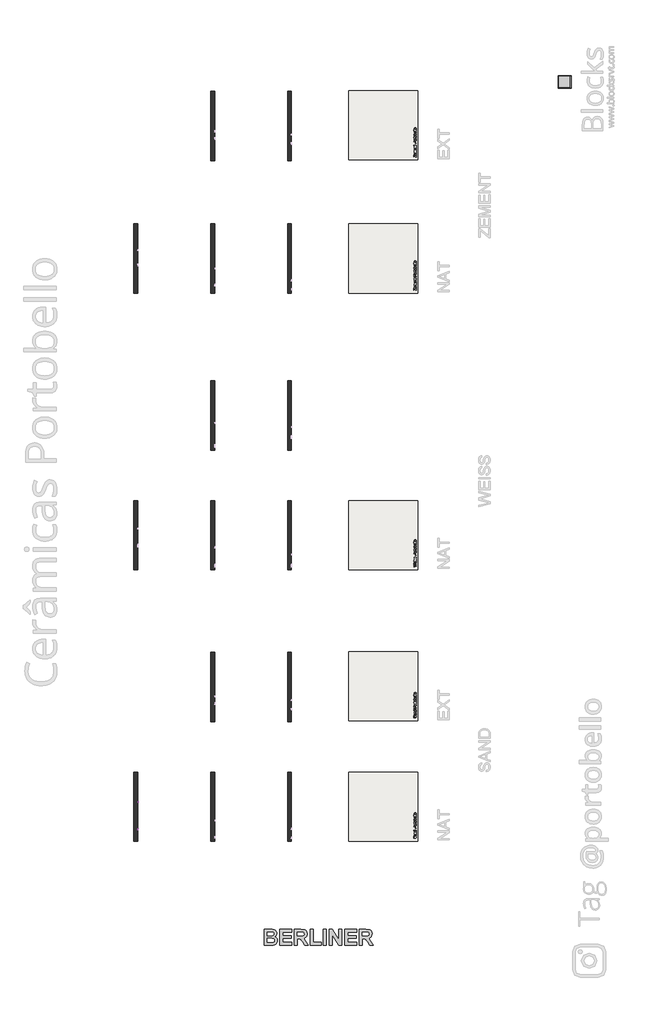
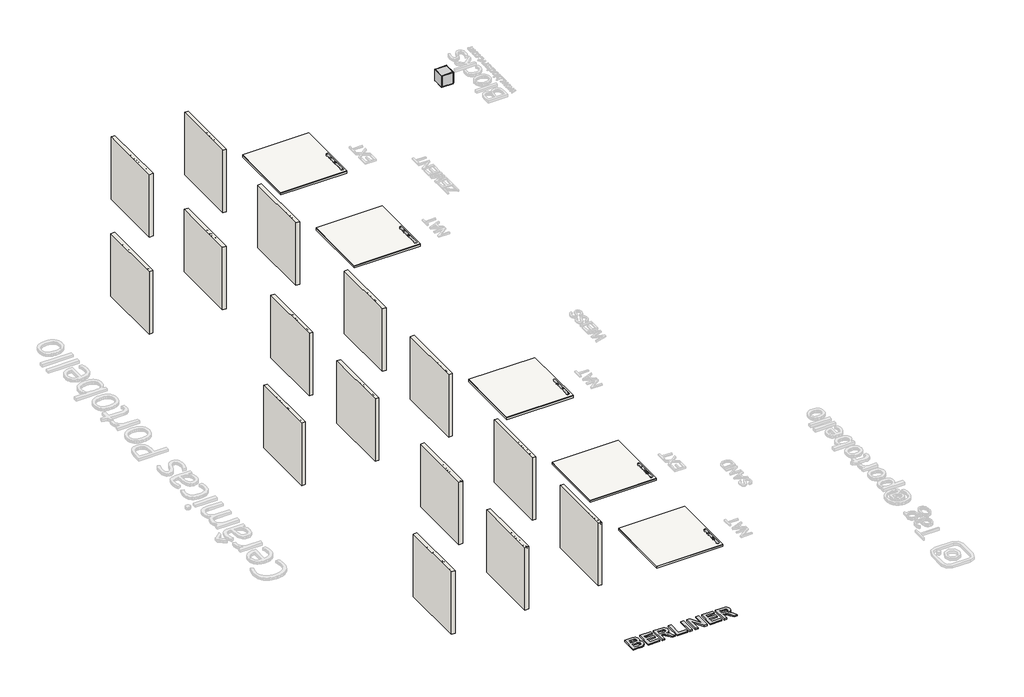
# One storey, part 1 of 12: 15 walls, 10 slabs, 3 proxies, 1 furniture element.
"""IFC4 building model written with IfcOpenShell, lengths in millimetres."""

from ifc_helpers import new_model, si_unit, frame, origin, origin_with_axes, place, context, project, spatial, polyline, outline, extrude, transform, mapped, element, save
from components import branco_22256ad2

model = new_model("IFC4")

# Units and contexts
model_context = context("Model", 3, world=origin())
ifc_project = project(units=[si_unit("LENGTHUNIT", "METRE", prefix="MILLI")], contexts=[model_context])

# Site, building, storey
site = spatial("IfcSite", under=ifc_project)
building = spatial("IfcBuilding", under=site)
storey = spatial("IfcBuildingStorey", under=building, Name="PORTOBELLO - SHOWROOM", Elevation=0.0)

# Proxies
placement = place(None, origin())
element("IfcBuildingElementProxy", 1, Name="10mm Arial", ObjectType="10mm Arial", at=placement, inside=storey, context=model_context, shape_type="SweptSolid", body=[
    extrude(outline(polyline([(-8706.1676644, 2517.8467461), (-8706.1676644, 2618.3030562), (-8684.5607286, 2618.3030562), (-8664.0083878, 2547.4980349), (-8659.863584, 2532.7091787), (-8655.3754236, 2548.7243082), (-8635.1664393, 2618.3030562), (-8613.5595035, 2618.3030562), (-8613.5595035, 2517.8467461), (-8626.1165423, 2517.8467461), (-8626.1165423, 2605.7460174), (-8651.3532471, 2517.8467461), (-8668.3739208, 2517.8467461), (-8693.6106256, 2605.7460174), (-8693.6106256, 2517.8467461), (-8706.1676644, 2517.8467461)])), frame((31348.9976597, 0.0, 0.0), z_axis=(1.0, 0.0, 0.0), x_axis=(0.0, 1.0, 0.0)), (0.0, 0.0, 1.0), 20.0),
    extrude(outline(polyline([(-8596.2935752, 2554.7330474), (-8593.5773798, 2572.5201419), (-8585.4287936, 2585.0219984), (-8575.3610897, 2591.1472336), (-8563.306823, 2593.1889787), (-8550.1151877, 2590.7027095), (-8539.5784343, 2583.2439021), (-8532.6714498, 2571.4011675), (-8530.3691216, 2555.763117), (-8534.4403491, 2533.4204172), (-8546.298412, 2520.7775393), (-8563.306823, 2516.2771162), (-8576.6578737, 2518.7541883), (-8587.1823644, 2526.1854046), (-8594.0157725, 2538.2764595), (-8596.2935752, 2554.7330474)]), holes=[polyline([(-8583.7365364, 2554.7575729), (-8582.2834025, 2543.3930849), (-8577.9240009, 2535.2966154), (-8571.3634386, 2530.4497701), (-8563.306823, 2528.834155), (-8555.2869955, 2530.4589671), (-8548.7386959, 2535.3334036), (-8544.3792943, 2543.537172), (-8542.9261604, 2555.1499804), (-8544.3884913, 2566.1833745), (-8548.7754841, 2574.1694795), (-8555.3329807, 2579.0163248), (-8563.306823, 2580.6319399), (-8571.3634386, 2579.0224562), (-8577.9240009, 2574.194005), (-8582.2834025, 2566.1159295), (-8583.7365364, 2554.7575729)])]), frame((31348.9976597, 0.0, 0.0), z_axis=(1.0, 0.0, 0.0), x_axis=(0.0, 1.0, 0.0)), (0.0, 0.0, 1.0), 20.0),
    extrude(outline(polyline([(-8520.9513426, 2539.8215639), (-8508.3943038, 2541.3911937), (-8502.5817683, 2532.0715165), (-8489.2644401, 2528.834155), (-8476.4621466, 2531.8017364), (-8472.2928173, 2538.7669688), (-8476.4866721, 2544.4078261), (-8489.4115929, 2547.9885442), (-8508.3207274, 2554.1321735), (-8516.5735468, 2561.3058724), (-8519.3817127, 2571.43489), (-8517.1253698, 2580.7913554), (-8510.9694778, 2587.9405289), (-8502.9864385, 2591.656137), (-8492.1829705, 2593.1889787), (-8476.903605, 2590.7241693), (-8467.1915203, 2584.0532425), (-8462.8750383, 2572.7837907), (-8475.432077, 2571.2141608), (-8480.1532293, 2578.1426051), (-8491.2019519, 2580.6319399), (-8503.2194304, 2578.2529697), (-8506.824674, 2572.7102143), (-8505.3286205, 2569.0559198), (-8500.6442564, 2566.2845421), (-8489.8285258, 2563.6112663), (-8471.3976378, 2557.7006289), (-8462.8382501, 2551.0051766), (-8459.7357786, 2540.091344), (-8463.3778103, 2528.0738655), (-8473.8869727, 2519.3550622), (-8489.4361183, 2516.2771162), (-8502.0973903, 2517.7609069), (-8511.3373598, 2522.2122791), (-8517.5055146, 2529.5821817), (-8520.9513426, 2539.8215639)])), frame((31348.9976597, 0.0, 0.0), z_axis=(1.0, 0.0, 0.0), x_axis=(0.0, 1.0, 0.0)), (0.0, 0.0, 1.0), 20.0),
    extrude(outline(polyline([(-8357.7098386, 2557.0874922), (-8357.7098386, 2569.644531), (-8316.8994626, 2569.644531), (-8316.8994626, 2532.096042), (-8337.0471332, 2520.2502418), (-8358.3475007, 2516.2771162), (-8372.4343154, 2517.8559431), (-8385.1660982, 2522.5924238), (-8395.7427055, 2530.3210114), (-8403.3639942, 2540.8761589), (-8407.9717162, 2553.537431), (-8409.5076235, 2567.5843918), (-8407.9778475, 2581.7325202), (-8403.3885196, 2594.8934986), (-8395.9297122, 2605.9330241), (-8385.7914975, 2613.716794), (-8373.4429252, 2618.333713), (-8359.3530448, 2619.872686), (-8339.7081463, 2616.3042307), (-8325.9370969, 2606.3714168), (-8318.3464651, 2589.7554134), (-8329.9224852, 2586.4935264), (-8335.6491816, 2598.1063347), (-8345.4348427, 2604.801787), (-8359.5492486, 2607.3156473), (-8375.6256917, 2604.6055832), (-8386.5640497, 2597.493198), (-8393.0265101, 2587.8179015), (-8396.9505847, 2568.0994266), (-8392.2294325, 2546.2104479), (-8378.4951713, 2533.1138489), (-8359.3530448, 2528.834155), (-8342.1729556, 2532.0592538), (-8329.4565013, 2538.9386471), (-8329.4565013, 2557.0874922), (-8357.7098386, 2557.0874922)])), frame((31348.9976597, 0.0, 0.0), z_axis=(1.0, 0.0, 0.0), x_axis=(0.0, 1.0, 0.0)), (0.0, 0.0, 1.0), 20.0),
    extrude(outline(polyline([(-8250.975009, 2527.2645251), (-8263.1519031, 2518.7541883), (-8276.6041214, 2516.2771162), (-8287.0979553, 2517.7670383), (-8294.8388056, 2522.2368045), (-8299.6120745, 2529.0242273), (-8301.2031641, 2537.4671191), (-8298.7996684, 2547.399933), (-8292.4843608, 2554.6104201), (-8283.6919811, 2558.7306984), (-8272.8271996, 2560.6191594), (-8251.0485854, 2564.9356414), (-8250.975009, 2567.7315446), (-8254.4330998, 2577.0021709), (-8268.3145138, 2580.6319399), (-8281.0187053, 2578.2161815), (-8287.0764955, 2569.644531), (-8299.6335343, 2571.2141608), (-8294.2011435, 2583.476894), (-8283.2627855, 2590.6628556), (-8266.695833, 2593.1889787), (-8251.4777811, 2590.9571612), (-8242.8816052, 2585.3530922), (-8239.0311069, 2576.8304926), (-8238.4179703, 2565.8430837), (-8238.4179703, 2550.2203616), (-8237.7803082, 2528.4049593), (-8235.2787106, 2517.8467461), (-8247.8357494, 2517.8467461), (-8250.975009, 2527.2645251)]), holes=[polyline([(-8250.975009, 2552.3786027), (-8271.2330442, 2548.5281044), (-8282.0365122, 2546.4924907), (-8286.9293427, 2543.1815528), (-8288.6461254, 2538.3500359), (-8284.9059917, 2531.5564817), (-8273.9308455, 2528.834155), (-8261.226654, 2531.8385246), (-8253.0351482, 2539.1103254), (-8251.0485854, 2548.82241), (-8250.975009, 2552.3786027)])]), frame((31348.9976597, 0.0, 0.0), z_axis=(1.0, 0.0, 0.0), x_axis=(0.0, 1.0, 0.0)), (0.0, 0.0, 1.0), 20.0),
    extrude(outline(polyline([(-8221.152042, 2517.8467461), (-8221.152042, 2591.6193488), (-8210.164633, 2591.6193488), (-8210.164633, 2580.7055163), (-8202.3655347, 2590.7609575), (-8194.5173855, 2593.1889787), (-8181.9112958, 2589.313955), (-8186.1051506, 2578.0567659), (-8194.9343184, 2580.6319399), (-8202.034441, 2578.1548678), (-8206.5593895, 2571.2877372), (-8208.5950032, 2556.6215083), (-8208.5950032, 2517.8467461), (-8221.152042, 2517.8467461)])), frame((31348.9976597, 0.0, 0.0), z_axis=(1.0, 0.0, 0.0), x_axis=(0.0, 1.0, 0.0)), (0.0, 0.0, 1.0), 20.0),
    extrude(outline(polyline([(-8147.3794392, 2528.3191202), (-8145.8098094, 2517.4788641), (-8155.203063, 2516.2771162), (-8165.724488, 2518.3617808), (-8170.9729378, 2523.8309598), (-8172.4935167, 2538.0802558), (-8172.4935167, 2579.06231), (-8181.9112958, 2579.06231), (-8181.9112958, 2589.313955), (-8181.9112958, 2591.6193488), (-8172.4935167, 2591.6193488), (-8172.4935167, 2609.5474647), (-8159.936478, 2616.9296301), (-8159.936478, 2591.6193488), (-8147.3794392, 2591.6193488), (-8147.3794392, 2579.06231), (-8159.936478, 2579.06231), (-8159.936478, 2538.4481378), (-8159.2742904, 2531.9734147), (-8157.1283121, 2529.6802836), (-8152.8486182, 2528.834155), (-8147.3794392, 2528.3191202)])), frame((31348.9976597, 0.0, 0.0), z_axis=(1.0, 0.0, 0.0), x_axis=(0.0, 1.0, 0.0)), (0.0, 0.0, 1.0), 20.0),
    extrude(outline(polyline([(-8083.1717683, 2539.8215639), (-8070.8599842, 2538.2519341), (-8075.2960279, 2528.9751764), (-8082.3746907, 2522.0406008), (-8091.9365568, 2517.7179874), (-8103.822211, 2516.2771162), (-8118.5558849, 2518.7633854), (-8129.8927817, 2526.2221928), (-8137.1216629, 2538.1691606), (-8139.53129, 2554.1199108), (-8137.0971374, 2570.6071555), (-8129.7946798, 2582.9373337), (-8118.6110672, 2590.6260674), (-8104.5334495, 2593.1889787), (-8090.8942245, 2590.6321988), (-8079.9957204, 2582.9618592), (-8072.8496127, 2570.6562065), (-8070.4675767, 2554.1934872), (-8070.5411531, 2550.8089728), (-8126.9742512, 2550.8089728), (-8124.8006817, 2541.4095878), (-8119.7515014, 2534.4995377), (-8112.4643722, 2530.2505007), (-8103.5769563, 2528.834155), (-8091.2651722, 2531.4583799), (-8083.1717683, 2539.8215639)]), holes=[polyline([(-8126.9742512, 2563.3660116), (-8083.0246155, 2563.3660116), (-8088.0523361, 2574.745828), (-8095.3731878, 2579.1604119), (-8104.5825004, 2580.6319399), (-8120.045807, 2575.9353131), (-8124.9110463, 2570.4446743), (-8126.9742512, 2563.3660116)])]), frame((31348.9976597, 0.0, 0.0), z_axis=(1.0, 0.0, 0.0), x_axis=(0.0, 1.0, 0.0)), (0.0, 0.0, 1.0), 20.0),
    extrude(outline(polyline([(-8057.910538, 2517.8467461), (-8057.910538, 2591.6193488), (-8045.3534992, 2591.6193488), (-8045.3534992, 2581.318653), (-8035.7517791, 2590.2213972), (-8022.6429174, 2593.1889787), (-8010.7848544, 2590.7977457), (-8002.6914505, 2584.5192263), (-7998.9267914, 2575.2853882), (-7998.2646038, 2563.1452824), (-7998.2646038, 2517.8467461), (-8010.8216426, 2517.8467461), (-8010.8216426, 2561.4530252), (-8012.2686451, 2572.5630615), (-8017.3822048, 2578.4369107), (-8026.0029063, 2580.6319399), (-8039.6268028, 2575.7023212), (-8043.9218251, 2568.5592791), (-8045.3534992, 2556.9893903), (-8045.3534992, 2517.8467461), (-8057.910538, 2517.8467461)])), frame((31348.9976597, 0.0, 0.0), z_axis=(1.0, 0.0, 0.0), x_axis=(0.0, 1.0, 0.0)), (0.0, 0.0, 1.0), 20.0),
    extrude(outline(polyline([(-7944.8971891, 2552.3786027), (-7932.3401503, 2552.3786027), (-7928.2934483, 2539.8093012), (-7918.4096854, 2531.8630501), (-7903.3510491, 2528.834155), (-7890.2299246, 2531.1272861), (-7881.756376, 2537.4303309), (-7878.9727355, 2545.8548286), (-7881.0574002, 2553.6907151), (-7889.5922625, 2559.392886), (-7907.8759976, 2564.1876147), (-7927.5576844, 2570.380295), (-7938.2385249, 2579.7244976), (-7941.7579294, 2592.20796), (-7937.4046591, 2606.4204678), (-7924.6882048, 2616.4513835), (-7906.0733758, 2619.872686), (-7886.2077481, 2616.291968), (-7872.9639963, 2605.7705429), (-7867.9853266, 2590.049719), (-7880.5423654, 2590.049719), (-7882.8477592, 2597.5422489), (-7887.6547506, 2602.9501143), (-7905.5828665, 2607.3156473), (-7923.5600333, 2602.9991652), (-7929.2008906, 2592.575842), (-7925.2032396, 2583.8693015), (-7904.6999497, 2576.8550181), (-7882.4798772, 2570.5519732), (-7870.3275086, 2560.3739047), (-7866.4156968, 2546.1736597), (-7870.9161198, 2531.1518115), (-7883.8655661, 2520.1889281), (-7902.8605397, 2516.2771162), (-7925.2890787, 2520.4954964), (-7939.477061, 2533.199688), (-7944.8971891, 2552.3786027)])), frame((31348.9976597, 0.0, 0.0), z_axis=(1.0, 0.0, 0.0), x_axis=(0.0, 1.0, 0.0)), (0.0, 0.0, 1.0), 20.0),
    extrude(outline(polyline([(-7802.0608731, 2527.2645251), (-7814.2377671, 2518.7541883), (-7827.6899854, 2516.2771162), (-7838.1838193, 2517.7670383), (-7845.9246696, 2522.2368045), (-7850.6979385, 2529.0242273), (-7852.2890281, 2537.4671191), (-7849.8855324, 2547.399933), (-7843.5702249, 2554.6104201), (-7834.7778452, 2558.7306984), (-7823.9130636, 2560.6191594), (-7802.1344495, 2564.9356414), (-7802.0608731, 2567.7315446), (-7805.5189638, 2577.0021709), (-7819.4003778, 2580.6319399), (-7832.1045693, 2578.2161815), (-7838.1623595, 2569.644531), (-7850.7193983, 2571.2141608), (-7845.2870075, 2583.476894), (-7834.3486495, 2590.6628556), (-7817.781697, 2593.1889787), (-7802.5636451, 2590.9571612), (-7793.9674692, 2585.3530922), (-7790.116971, 2576.8304926), (-7789.5038343, 2565.8430837), (-7789.5038343, 2550.2203616), (-7788.8661722, 2528.4049593), (-7786.3645746, 2517.8467461), (-7798.9216134, 2517.8467461), (-7802.0608731, 2527.2645251)]), holes=[polyline([(-7802.0608731, 2552.3786027), (-7822.3189083, 2548.5281044), (-7833.1223762, 2546.4924907), (-7838.0152067, 2543.1815528), (-7839.7319894, 2538.3500359), (-7835.9918558, 2531.5564817), (-7825.0167096, 2528.834155), (-7812.312518, 2531.8385246), (-7804.1210122, 2539.1103254), (-7802.1344495, 2548.82241), (-7802.0608731, 2552.3786027)])]), frame((31348.9976597, 0.0, 0.0), z_axis=(1.0, 0.0, 0.0), x_axis=(0.0, 1.0, 0.0)), (0.0, 0.0, 1.0), 20.0),
    extrude(outline(polyline([(-7772.237906, 2517.8467461), (-7772.237906, 2591.6193488), (-7759.6808672, 2591.6193488), (-7759.6808672, 2581.318653), (-7750.0791471, 2590.2213972), (-7736.9702854, 2593.1889787), (-7725.1122224, 2590.7977457), (-7717.0188185, 2584.5192263), (-7713.2541594, 2575.2853882), (-7712.5919718, 2563.1452824), (-7712.5919718, 2517.8467461), (-7725.1490106, 2517.8467461), (-7725.1490106, 2561.4530252), (-7726.5960131, 2572.5630615), (-7731.7095729, 2578.4369107), (-7740.3302743, 2580.6319399), (-7753.9541708, 2575.7023212), (-7758.2491931, 2568.5592791), (-7759.6808672, 2556.9893903), (-7759.6808672, 2517.8467461), (-7772.237906, 2517.8467461)])), frame((31348.9976597, 0.0, 0.0), z_axis=(1.0, 0.0, 0.0), x_axis=(0.0, 1.0, 0.0)), (0.0, 0.0, 1.0), 20.0),
    extrude(outline(polyline([(-7649.806778, 2517.8467461), (-7649.806778, 2529.6925463), (-7658.1147797, 2519.6309737), (-7669.5988293, 2516.2771162), (-7685.147975, 2521.1331585), (-7696.1353839, 2534.6834787), (-7700.0349331, 2554.659471), (-7696.4419522, 2574.6477261), (-7685.6752725, 2588.4065127), (-7669.6478803, 2593.1889787), (-7658.0718602, 2589.7676761), (-7649.806778, 2580.8771946), (-7649.806778, 2618.3030562), (-7637.2497392, 2618.3030562), (-7637.2497392, 2517.8467461), (-7649.806778, 2517.8467461)]), holes=[polyline([(-7687.4778943, 2554.708522), (-7686.0615486, 2543.3501654), (-7681.8125116, 2535.2720899), (-7675.6382254, 2530.4436387), (-7668.4461324, 2528.834155), (-7661.2571051, 2530.3700623), (-7655.2391688, 2534.9777843), (-7651.1648757, 2542.7431601), (-7649.806778, 2553.7520288), (-7651.1894012, 2565.7879014), (-7655.3372707, 2574.1326913), (-7661.5084911, 2579.0071277), (-7668.9611672, 2580.6319399), (-7676.2268366, 2579.0715071), (-7682.1803936, 2574.3902087), (-7686.1535191, 2566.3489214), (-7687.4778943, 2554.708522)])]), frame((31348.9976597, 0.0, 0.0), z_axis=(1.0, 0.0, 0.0), x_axis=(0.0, 1.0, 0.0)), (0.0, 0.0, 1.0), 20.0),
    extrude(outline(polyline([(-7577.6038051, 2517.8467461), (-7577.6038051, 2618.3030562), (-7555.9968692, 2618.3030562), (-7535.4445284, 2547.4980349), (-7531.2997246, 2532.7091787), (-7526.8115643, 2548.7243082), (-7506.60258, 2618.3030562), (-7484.9956442, 2618.3030562), (-7484.9956442, 2517.8467461), (-7497.5526829, 2517.8467461), (-7497.5526829, 2605.7460174), (-7522.7893878, 2517.8467461), (-7539.8100614, 2517.8467461), (-7565.0467663, 2605.7460174), (-7565.0467663, 2517.8467461), (-7577.6038051, 2517.8467461)])), frame((31348.9976597, 0.0, 0.0), z_axis=(1.0, 0.0, 0.0), x_axis=(0.0, 1.0, 0.0)), (0.0, 0.0, 1.0), 20.0),
    extrude(outline(polyline([(31368.9976597, -7452.0334174), (31368.9976597, -7464.5904562), (31348.9976597, -7464.5904562), (31348.9976597, -7452.0334174), (31368.9976597, -7452.0334174)])), frame((0.0, 0.0, 2605.7460174), z_axis=(0.0, 0.0, 1.0), x_axis=(1.0, 0.0, 0.0)), (0.0, 0.0, 1.0), 12.5570388),
    extrude(outline(polyline([(31368.9976597, -7452.0334174), (31368.9976597, -7464.5904562), (31348.9976597, -7464.5904562), (31348.9976597, -7452.0334174), (31368.9976597, -7452.0334174)])), frame((0.0, 0.0, 2517.8467461), z_axis=(0.0, 0.0, 1.0), x_axis=(1.0, 0.0, 0.0)), (0.0, 0.0, 1.0), 73.7726028),
    extrude(outline(polyline([(-7441.0460085, 2517.8467461), (-7414.2151483, 2554.9292512), (-7439.4763786, 2591.6193488), (-7424.3686913, 2591.6193488), (-7412.1795346, 2573.961013), (-7406.4896264, 2565.6223545), (-7401.5600076, 2572.4404341), (-7387.6785937, 2591.6193488), (-7372.5709064, 2591.6193488), (-7399.107461, 2554.9292512), (-7373.5519251, 2517.8467461), (-7388.6596124, 2517.8467461), (-7404.0370797, 2540.140395), (-7406.8575084, 2544.2116224), (-7425.9383212, 2517.8467461), (-7441.0460085, 2517.8467461)])), frame((31348.9976597, 0.0, 0.0), z_axis=(1.0, 0.0, 0.0), x_axis=(0.0, 1.0, 0.0)), (0.0, 0.0, 1.0), 20.0),
])
element("IfcBuildingElementProxy", 2, Name="10mm Arial Narrow", ObjectType="10mm Arial Narrow", at=placement, inside=storey, context=model_context, shape_type="SweptSolid", body=[
    extrude(outline(polyline([(-7329.0326053, 2517.8467461), (-7329.0326053, 2618.5653498), (-7297.7357206, 2618.5653498), (-7281.4400191, 2616.6870291), (-7269.967033, 2607.2065859), (-7265.6773545, 2590.1874771), (-7267.4636629, 2578.1116515), (-7272.8225881, 2568.4852578), (-7282.566377, 2562.1839994), (-7297.5072762, 2560.0835799), (-7319.2856436, 2560.0835799), (-7319.2856436, 2517.8467461), (-7329.0326053, 2517.8467461)]), holes=[polyline([(-7319.2856436, 2571.4550351), (-7296.3142887, 2571.4550351), (-7280.4500933, 2575.9858494), (-7275.4243162, 2589.6544401), (-7277.8991307, 2599.8202165), (-7283.8767595, 2605.6201664), (-7296.5427331, 2607.1938945), (-7319.2856436, 2607.1938945), (-7319.2856436, 2571.4550351)])]), frame((31348.9976597, 0.0, 0.0), z_axis=(1.0, 0.0, 0.0), x_axis=(0.0, 1.0, 0.0)), (0.0, 0.0, 1.0), 20.0),
    extrude(outline(polyline([(-7257.5548865, 2554.3978523), (-7255.6004176, 2570.9886278), (-7249.737011, 2582.9407126), (-7240.8784443, 2590.1652672), (-7229.9384951, 2592.5734521), (-7219.1254596, 2590.1652672), (-7210.2415101, 2582.9407126), (-7204.3019554, 2571.1789981), (-7202.3221038, 2555.1593336), (-7204.2670541, 2537.997447), (-7210.1019052, 2525.8549919), (-7218.9509534, 2518.6304373), (-7229.9384951, 2516.2222524), (-7240.7991233, 2518.636783), (-7249.6735542, 2525.8803746), (-7255.5845534, 2537.8388051), (-7257.5548865, 2554.3978523)]), holes=[polyline([(-7247.8079248, 2554.423235), (-7246.503888, 2541.8714836), (-7242.5917774, 2533.0002255), (-7236.7505806, 2527.7269669), (-7229.6592853, 2525.9692141), (-7222.9392121, 2527.7428311), (-7217.2471388, 2533.0636823), (-7213.3635838, 2541.9508045), (-7212.0690654, 2554.423235), (-7213.3731023, 2566.9369123), (-7217.2852129, 2575.795479), (-7223.1264096, 2581.0687376), (-7230.217705, 2582.8264904), (-7236.9853707, 2581.059219), (-7242.6679255, 2575.7574049), (-7246.522925, 2566.8893197), (-7247.8079248, 2554.423235)])]), frame((31348.9976597, 0.0, 0.0), z_axis=(1.0, 0.0, 0.0), x_axis=(0.0, 1.0, 0.0)), (0.0, 0.0, 1.0), 20.0),
    extrude(outline(polyline([(-7130.844385, 2525.9692141), (-7129.2198914, 2516.2222524), (-7136.5808781, 2516.2222524), (-7144.8556424, 2518.3417089), (-7149.1707035, 2524.1416588), (-7150.3383083, 2538.787484), (-7150.3383083, 2581.2019968), (-7158.4607764, 2581.2019968), (-7158.4607764, 2584.450984), (-7160.08527, 2579.5775032), (-7167.6493183, 2581.2019968), (-7173.728478, 2578.8794786), (-7177.5993417, 2572.3941955), (-7179.5791933, 2556.9868889), (-7179.5791933, 2517.8467461), (-7189.3261549, 2517.8467461), (-7189.3261549, 2590.9489585), (-7179.5791933, 2590.9489585), (-7179.5791933, 2581.2527622), (-7173.335046, 2590.3397733), (-7166.9386024, 2592.5734521), (-7158.4607764, 2590.9489585), (-7150.3383083, 2590.9489585), (-7150.3383083, 2607.1938945), (-7140.5913467, 2615.3163626), (-7140.5913467, 2590.9489585), (-7130.844385, 2590.9489585), (-7130.844385, 2581.2019968), (-7140.5913467, 2581.2019968), (-7140.5913467, 2536.5538053), (-7139.7283344, 2528.5582508), (-7135.1086807, 2525.9692141), (-7130.844385, 2525.9692141)])), frame((31348.9976597, 0.0, 0.0), z_axis=(1.0, 0.0, 0.0), x_axis=(0.0, 1.0, 0.0)), (0.0, 0.0, 1.0), 20.0),
    extrude(outline(polyline([(-7124.3464106, 2554.3978523), (-7122.3919417, 2570.9886278), (-7116.5285351, 2582.9407126), (-7107.6699684, 2590.1652672), (-7096.7300192, 2592.5734521), (-7085.9169836, 2590.1652672), (-7077.0330342, 2582.9407126), (-7071.0934794, 2571.1789981), (-7069.1136279, 2555.1593336), (-7071.0585782, 2537.997447), (-7076.8934293, 2525.8549919), (-7085.7424775, 2518.6304373), (-7096.7300192, 2516.2222524), (-7107.5906474, 2518.636783), (-7116.4650783, 2525.8803746), (-7122.3760775, 2537.8388051), (-7124.3464106, 2554.3978523)]), holes=[polyline([(-7114.5994489, 2554.423235), (-7113.295412, 2541.8714836), (-7109.3833015, 2533.0002255), (-7103.5421047, 2527.7269669), (-7096.4508094, 2525.9692141), (-7089.7307362, 2527.7428311), (-7084.0386629, 2533.0636823), (-7080.1551079, 2541.9508045), (-7078.8605895, 2554.423235), (-7080.1646264, 2566.9369123), (-7084.076737, 2575.795479), (-7089.9179337, 2581.0687376), (-7097.0092291, 2582.8264904), (-7103.7768948, 2581.059219), (-7109.4594496, 2575.7574049), (-7113.3144491, 2566.8893197), (-7114.5994489, 2554.423235)])]), frame((31348.9976597, 0.0, 0.0), z_axis=(1.0, 0.0, 0.0), x_axis=(0.0, 1.0, 0.0)), (0.0, 0.0, 1.0), 20.0),
    extrude(outline(polyline([(-7046.3707173, 2517.8467461), (-7056.117679, 2517.8467461), (-7056.117679, 2618.5653498), (-7046.3707173, 2618.5653498), (-7046.3707173, 2583.1564657), (-7038.9716566, 2590.2382425), (-7029.7704233, 2592.5734521), (-7016.8886966, 2588.3726131), (-7007.6113151, 2575.6431827), (-7004.1338835, 2554.9562719), (-7006.0661425, 2538.5019285), (-7011.8629195, 2526.2991894), (-7020.2360418, 2518.7414867), (-7029.8973368, 2516.2222524), (-7039.2381751, 2518.8366718), (-7046.3707173, 2526.6037819), (-7046.3707173, 2517.8467461)]), holes=[polyline([(-7046.3707173, 2554.9562719), (-7044.2893349, 2537.7087187), (-7038.4005456, 2528.9770655), (-7029.9481023, 2525.9692141), (-7024.0053747, 2527.7586953), (-7018.7670173, 2533.1271391), (-7013.8808452, 2554.5501485), (-7018.5893384, 2575.9858494), (-7023.8340414, 2581.1163301), (-7030.151164, 2582.8264904), (-7036.1287928, 2581.0370092), (-7041.4210884, 2575.6685654), (-7046.3707173, 2554.9562719)])]), frame((31348.9976597, 0.0, 0.0), z_axis=(1.0, 0.0, 0.0), x_axis=(0.0, 1.0, 0.0)), (0.0, 0.0, 1.0), 20.0),
    extrude(outline(polyline([(-6952.150088, 2540.5896566), (-6942.4031264, 2538.965163), (-6946.1026567, 2529.0785964), (-6951.9216436, 2521.9587455), (-6959.6252969, 2517.6563757), (-6968.9788265, 2516.2222524), (-6980.5723805, 2518.636783), (-6989.7165027, 2525.8803746), (-6995.6560575, 2537.6865088), (-6997.6359091, 2553.7886671), (-6995.646539, 2570.4555908), (-6989.6784287, 2582.6361201), (-6980.6643928, 2590.0891191), (-6969.5372462, 2592.5734521), (-6958.854297, 2590.1747857), (-6950.1067797, 2582.9787867), (-6944.2719286, 2571.2392821), (-6942.3269782, 2555.2100991), (-6942.4031264, 2551.9611118), (-6987.8889474, 2551.9611118), (-6981.8859359, 2532.517954), (-6975.9558996, 2527.6063991), (-6968.8519129, 2525.9692141), (-6958.6734452, 2529.6243247), (-6952.150088, 2540.5896566)]), holes=[polyline([(-6987.2289969, 2561.7080735), (-6952.150088, 2561.7080735), (-6956.4143837, 2575.973158), (-6962.2397163, 2581.1131573), (-6969.461098, 2582.8264904), (-6981.6701828, 2577.1153801), (-6987.2289969, 2561.7080735)])]), frame((31348.9976597, 0.0, 0.0), z_axis=(1.0, 0.0, 0.0), x_axis=(0.0, 1.0, 0.0)), (0.0, 0.0, 1.0), 20.0),
    extrude(outline(polyline([(31368.9976597, -6919.6602158), (31368.9976597, -6929.4071775), (31348.9976597, -6929.4071775), (31348.9976597, -6919.6602158), (31368.9976597, -6919.6602158)])), frame((0.0, 0.0, 2517.8467461), z_axis=(0.0, 0.0, 1.0), x_axis=(1.0, 0.0, 0.0)), (0.0, 0.0, 1.0), 100.7186038),
    extrude(outline(polyline([(31368.9976597, -6893.6683181), (31368.9976597, -6903.4152798), (31348.9976597, -6903.4152798), (31348.9976597, -6893.6683181), (31368.9976597, -6893.6683181)])), frame((0.0, 0.0, 2517.8467461), z_axis=(0.0, 0.0, 1.0), x_axis=(1.0, 0.0, 0.0)), (0.0, 0.0, 1.0), 100.7186038),
    extrude(outline(polyline([(-6882.2968628, 2554.3978523), (-6880.342394, 2570.9886278), (-6874.4789873, 2582.9407126), (-6865.6204206, 2590.1652672), (-6854.6804715, 2592.5734521), (-6843.8674359, 2590.1652672), (-6834.9834865, 2582.9407126), (-6829.0439317, 2571.1789981), (-6827.0640801, 2555.1593336), (-6829.0090305, 2537.997447), (-6834.8438816, 2525.8549919), (-6843.6929298, 2518.6304373), (-6854.6804715, 2516.2222524), (-6865.5410997, 2518.636783), (-6874.4155306, 2525.8803746), (-6880.3265298, 2537.8388051), (-6882.2968628, 2554.3978523)]), holes=[polyline([(-6872.5499012, 2554.423235), (-6871.2458643, 2541.8714836), (-6867.3337537, 2533.0002255), (-6861.492557, 2527.7269669), (-6854.4012616, 2525.9692141), (-6847.6811885, 2527.7428311), (-6841.9891152, 2533.0636823), (-6838.1055601, 2541.9508045), (-6836.8110418, 2554.423235), (-6838.1150786, 2566.9369123), (-6842.0271892, 2575.795479), (-6847.868386, 2581.0687376), (-6854.9596813, 2582.8264904), (-6861.7273471, 2581.059219), (-6867.4099019, 2575.7574049), (-6871.2649014, 2566.8893197), (-6872.5499012, 2554.423235)])]), frame((31348.9976597, 0.0, 0.0), z_axis=(1.0, 0.0, 0.0), x_axis=(0.0, 1.0, 0.0)), (0.0, 0.0, 1.0), 20.0),
])
element("IfcBuildingElementProxy", 3, Name="600mm Arial", ObjectType="600mm Arial", at=placement, inside=storey, context=model_context, shape_type="SweptSolid", body=[
    extrude(outline(polyline([(36287.2173237, -12276.5446312), (36538.4865658, -12276.5446312), (36603.562263, -12278.0628744), (36649.6978769, -12282.6176038), (36684.427689, -12292.0117334), (36715.2859811, -12308.0481767), (36741.7983022, -12330.5940875), (36763.4902013, -12359.5166196), (36777.9514674, -12393.5822004), (36782.7718894, -12431.5572573), (36777.0215434, -12472.9293833), (36759.7705056, -12510.80955), (36732.6508872, -12542.4269637), (36697.2947998, -12565.0108306), (36721.1122393, -12574.5567844), (36742.0070607, -12586.9494442), (36759.979264, -12602.1888099), (36775.0288493, -12620.2748814), (36786.918591, -12640.6478068), (36795.4112636, -12662.7477337), (36800.5068672, -12686.5746622), (36802.2054018, -12712.1285923), (36797.3280456, -12753.1401355), (36782.6959772, -12792.9750403), (36759.6186813, -12828.2741936), (36729.4056425, -12855.6784826), (36691.6962781, -12874.637544), (36646.1300055, -12884.6010147), (36496.4312304, -12888.7002712), (36287.2173237, -12888.7002712), (36287.2173237, -12276.5446312)]), holes=[polyline([(36403.818398, -12383.4289493), (36403.818398, -12519.463536), (36492.7874468, -12519.463536), (36591.4732519, -12517.4898199), (36622.5403024, -12510.3920331), (36646.2059176, -12496.38624), (36661.1795907, -12476.15565), (36666.1708151, -12450.3834724), (36661.8628001, -12425.7309992), (36648.9387553, -12406.1266845), (36627.5505048, -12392.405562), (36597.8498731, -12385.4026654), (36481.8560961, -12383.4289493), (36403.818398, -12383.4289493)]), polyline([(36403.818398, -12626.3478541), (36403.818398, -12781.8159531), (36527.0997421, -12781.8159531), (36618.49798, -12778.1721695), (36645.4847521, -12770.0305906), (36666.9299367, -12755.0189614), (36680.9357298, -12733.4409306), (36685.6043275, -12705.6001467), (36681.9985, -12681.4600806), (36671.1810175, -12661.2674466), (36653.5693969, -12645.5156739), (36629.5811551, -12634.6981914), (36586.4630495, -12628.4354384), (36511.4618376, -12626.3478541), (36403.818398, -12626.3478541)])]), origin_with_axes(), (0.0, 0.0, 1.0), 50.0),
    extrude(outline(polyline([(36899.3729637, -12888.7002712), (36899.3729637, -12276.5446312), (37356.0605046, -12276.5446312), (37356.0605046, -12383.4289493), (37015.9740379, -12383.4289493), (37015.9740379, -12519.463536), (37336.6269922, -12519.463536), (37336.6269922, -12626.3478541), (37015.9740379, -12626.3478541), (37015.9740379, -12781.8159531), (37365.7772608, -12781.8159531), (37365.7772608, -12888.7002712), (36899.3729637, -12888.7002712)])), origin_with_axes(), (0.0, 0.0, 1.0), 50.0),
    extrude(outline(polyline([(37462.9448227, -12888.7002712), (37462.9448227, -12276.5446312), (37720.4388617, -12276.5446312), (37804.321796, -12280.6818438), (37836.2997925, -12285.8533596), (37861.6354751, -12293.0934816), (37882.5492746, -12302.9810401), (37901.2616214, -12316.0948654), (37917.7725157, -12332.4349573), (37932.0819575, -12352.001316), (37943.6395835, -12373.9494186), (37951.8950306, -12397.4347424), (37956.8482989, -12422.4572874), (37958.4993884, -12449.0170536), (37956.1128999, -12482.1242434), (37948.9534345, -12512.2139249), (37937.0209922, -12539.2860982), (37920.315573, -12563.3407631), (37898.8561549, -12583.7990896), (37872.661716, -12600.0822475), (37841.7322562, -12612.1902366), (37806.0677756, -12620.1230571), (37839.8866419, -12644.4908598), (37867.2529748, -12671.1360271), (37895.5682096, -12709.7373593), (37932.2337818, -12769.9736565), (38007.0831693, -12888.7002712), (37870.8967583, -12888.7002712), (37782.2313581, -12748.8700766), (37739.3979231, -12695.1812031), (37712.6199095, -12665.8980882), (37693.3002653, -12651.4937563), (37672.8419388, -12642.4412315), (37645.6843644, -12637.6587656), (37606.2669765, -12636.0646103), (37579.545897, -12636.0646103), (37579.545897, -12888.7002712), (37462.9448227, -12888.7002712)]), holes=[polyline([(37579.545897, -12529.1802922), (37675.6506887, -12529.1802922), (37751.5059123, -12527.4153345), (37792.3276751, -12522.1204615), (37813.0896502, -12512.5175735), (37828.7655108, -12497.828571), (37838.6151133, -12478.4519928), (37841.8983141, -12454.7863776), (37837.5713211, -12428.5777051), (37824.5903421, -12407.9485763), (37803.7144988, -12393.39242), (37775.7029125, -12385.4026654), (37680.9645397, -12383.4289493), (37579.545897, -12383.4289493), (37579.545897, -12529.1802922)])]), origin_with_axes(), (0.0, 0.0, 1.0), 50.0),
    extrude(outline(polyline([(38075.1004627, -12888.7002712), (38075.1004627, -12276.5446312), (38191.7015369, -12276.5446312), (38191.7015369, -12781.8159531), (38502.637735, -12781.8159531), (38502.637735, -12888.7002712), (38075.1004627, -12888.7002712)])), origin_with_axes(), (0.0, 0.0, 1.0), 50.0),
    extrude(outline(polyline([(38590.0885407, -12888.7002712), (38590.0885407, -12276.5446312), (38706.689615, -12276.5446312), (38706.689615, -12888.7002712), (38590.0885407, -12888.7002712)])), origin_with_axes(), (0.0, 0.0, 1.0), 50.0),
    extrude(outline(polyline([(38823.2906893, -12888.7002712), (38823.2906893, -12276.5446312), (38945.5092632, -12276.5446312), (39202.2441807, -12688.5958234), (39202.2441807, -12276.5446312), (39318.845255, -12276.5446312), (39318.845255, -12888.7002712), (39192.8310731, -12888.7002712), (38939.8917636, -12482.7220516), (38939.8917636, -12888.7002712), (38823.2906893, -12888.7002712)])), origin_with_axes(), (0.0, 0.0, 1.0), 50.0),
    extrude(outline(polyline([(39435.4463293, -12888.7002712), (39435.4463293, -12276.5446312), (39892.1338702, -12276.5446312), (39892.1338702, -12383.4289493), (39552.0474035, -12383.4289493), (39552.0474035, -12519.463536), (39872.7003578, -12519.463536), (39872.7003578, -12626.3478541), (39552.0474035, -12626.3478541), (39552.0474035, -12781.8159531), (39901.8506264, -12781.8159531), (39901.8506264, -12888.7002712), (39435.4463293, -12888.7002712)])), origin_with_axes(), (0.0, 0.0, 1.0), 50.0),
    extrude(outline(polyline([(39999.0181883, -12888.7002712), (39999.0181883, -12276.5446312), (40256.5122273, -12276.5446312), (40340.3951616, -12280.6818438), (40372.3731581, -12285.8533596), (40397.7088407, -12293.0934816), (40418.6226402, -12302.9810401), (40437.334987, -12316.0948654), (40453.8458814, -12332.4349573), (40468.1553231, -12352.001316), (40479.7129491, -12373.9494186), (40487.9683963, -12397.4347424), (40492.9216645, -12422.4572874), (40494.572754, -12449.0170536), (40492.1862655, -12482.1242434), (40485.0268001, -12512.2139249), (40473.0943579, -12539.2860982), (40456.3889386, -12563.3407631), (40434.9295205, -12583.7990896), (40408.7350816, -12600.0822475), (40377.8056219, -12612.1902366), (40342.1411412, -12620.1230571), (40375.9600075, -12644.4908598), (40403.3263404, -12671.1360271), (40431.6415752, -12709.7373593), (40468.3071474, -12769.9736565), (40543.1565349, -12888.7002712), (40406.970124, -12888.7002712), (40318.3047237, -12748.8700766), (40275.4712887, -12695.1812031), (40248.6932751, -12665.8980882), (40229.3736309, -12651.4937563), (40208.9153044, -12642.4412315), (40181.75773, -12637.6587656), (40142.3403421, -12636.0646103), (40115.6192626, -12636.0646103), (40115.6192626, -12888.7002712), (39999.0181883, -12888.7002712)]), holes=[polyline([(40115.6192626, -12529.1802922), (40211.7240543, -12529.1802922), (40287.5792779, -12527.4153345), (40328.4010407, -12522.1204615), (40349.1630158, -12512.5175735), (40364.8388764, -12497.828571), (40374.6884789, -12478.4519928), (40377.9716797, -12454.7863776), (40373.6446867, -12428.5777051), (40360.6637077, -12407.9485763), (40339.7878644, -12393.39242), (40311.7762782, -12385.4026654), (40217.0379053, -12383.4289493), (40115.6192626, -12383.4289493), (40115.6192626, -12529.1802922)])]), origin_with_axes(), (0.0, 0.0, 1.0), 50.0),
])

# Furniture
branco_shape = branco_22256ad2(model_context)
element("IfcFurniture", 4, ObjectType="Blks_Mob_Blocks Revit_Cubo : Branco", at=placement, inside=storey, context=model_context, shape_type="MappedRepresentation", body=[
    mapped(branco_shape, transform((48016.7928851, 20810.1694969, 0.0), x_axis=(1.0, 0.0, 0.0), y_axis=(0.0, 1.0, 0.0), z_axis=(0.0, 0.0, 1.0))),
])

# Slabs
element("IfcSlab", 5, ObjectType="PORTOBELLO - BERLINER - SAND - 120X120 - NAT - RET", at=placement, inside=storey, context=model_context, shape_type="SweptSolid", body=[
    extrude(outline(polyline([(42288.1848248, -8832.1323022), (39588.1848248, -8832.1323022), (39588.1848248, -6132.1323022), (42288.1848248, -6132.1323022), (42288.1848248, -8832.1323022)])), origin_with_axes(), (0.0, 0.0, 1.0), 17.0),
])
element("IfcSlab", 6, ObjectType="PORTOBELLO - BERLINER - SAND - 120X120 - EXT - RET", at=placement, inside=storey, context=model_context, shape_type="SweptSolid", body=[
    extrude(outline(polyline([(42288.1848248, -4132.1323022), (39588.1848248, -4132.1323022), (39588.1848248, -1432.1323022), (42288.1848248, -1432.1323022), (42288.1848248, -4132.1323022)])), origin_with_axes(), (0.0, 0.0, 1.0), 17.0),
])
element("IfcSlab", 7, ObjectType="PORTOBELLO - BERLINER - WEISS - 120X120 - NAT - RET", at=placement, inside=storey, context=model_context, shape_type="SweptSolid", body=[
    extrude(outline(polyline([(42288.1848248, 1767.8676978), (39588.1848248, 1767.8676978), (39588.1848248, 4467.8676978), (42288.1848248, 4467.8676978), (42288.1848248, 1767.8676978)])), origin_with_axes(), (0.0, 0.0, 1.0), 17.0),
])
element("IfcSlab", 8, ObjectType="PORTOBELLO - BERLINER - ZEMENT - 120X120 - NAT - RET", at=placement, inside=storey, context=model_context, shape_type="SweptSolid", body=[
    extrude(outline(polyline([(42288.1848248, 12567.8676978), (39588.1848248, 12567.8676978), (39588.1848248, 15267.8676978), (42288.1848248, 15267.8676978), (42288.1848248, 12567.8676978)])), origin_with_axes(), (0.0, 0.0, 1.0), 17.0),
])
element("IfcSlab", 9, ObjectType="PORTOBELLO - BERLINER - ZEMENT - 120X120 - EXT - RET", at=placement, inside=storey, context=model_context, shape_type="SweptSolid", body=[
    extrude(outline(polyline([(42288.1848248, 17767.8676978), (39588.1848248, 17767.8676978), (39588.1848248, 20467.8676978), (42288.1848248, 20467.8676978), (42288.1848248, 17767.8676978)])), origin_with_axes(), (0.0, 0.0, 1.0), 17.0),
])
element("IfcSlab", 10, ObjectType="PORTOBELLO - LAJE", at=placement, inside=storey, context=model_context, shape_type="SweptSolid", body=[
    extrude(outline(polyline([(42288.1848248, -6132.1323022), (42288.1848248, -8832.1323022), (39588.1848248, -8832.1323022), (39588.1848248, -6132.1323022), (42288.1848248, -6132.1323022)])), frame((0.0, 0.0, -80.0), z_axis=(0.0, 0.0, 1.0), x_axis=(1.0, 0.0, 0.0)), (0.0, 0.0, 1.0), 80.0),
])
element("IfcSlab", 11, ObjectType="PORTOBELLO - LAJE", at=placement, inside=storey, context=model_context, shape_type="SweptSolid", body=[
    extrude(outline(polyline([(42288.1848248, -1432.1323022), (42288.1848248, -4132.1323022), (39588.1848248, -4132.1323022), (39588.1848248, -1432.1323022), (42288.1848248, -1432.1323022)])), frame((0.0, 0.0, -80.0), z_axis=(0.0, 0.0, 1.0), x_axis=(1.0, 0.0, 0.0)), (0.0, 0.0, 1.0), 80.0),
])
element("IfcSlab", 12, ObjectType="PORTOBELLO - LAJE", at=placement, inside=storey, context=model_context, shape_type="SweptSolid", body=[
    extrude(outline(polyline([(42288.1848248, 4467.8676978), (42288.1848248, 1767.8676978), (39588.1848248, 1767.8676978), (39588.1848248, 4467.8676978), (42288.1848248, 4467.8676978)])), frame((0.0, 0.0, -80.0), z_axis=(0.0, 0.0, 1.0), x_axis=(1.0, 0.0, 0.0)), (0.0, 0.0, 1.0), 80.0),
])
element("IfcSlab", 13, ObjectType="PORTOBELLO - LAJE", at=placement, inside=storey, context=model_context, shape_type="SweptSolid", body=[
    extrude(outline(polyline([(42288.1848248, 15267.8676978), (42288.1848248, 12567.8676978), (39588.1848248, 12567.8676978), (39588.1848248, 15267.8676978), (42288.1848248, 15267.8676978)])), frame((0.0, 0.0, -80.0), z_axis=(0.0, 0.0, 1.0), x_axis=(1.0, 0.0, 0.0)), (0.0, 0.0, 1.0), 80.0),
])
element("IfcSlab", 14, ObjectType="PORTOBELLO - LAJE", at=placement, inside=storey, context=model_context, shape_type="SweptSolid", body=[
    extrude(outline(polyline([(42288.1848248, 20467.8676978), (42288.1848248, 17767.8676978), (39588.1848248, 17767.8676978), (39588.1848248, 20467.8676978), (42288.1848248, 20467.8676978)])), frame((0.0, 0.0, -80.0), z_axis=(0.0, 0.0, 1.0), x_axis=(1.0, 0.0, 0.0)), (0.0, 0.0, 1.0), 80.0),
])

# Walls
element("IfcWall", 15, ObjectType="PORTOBELLO - BERLINER - SAND - 60X120 - NAT - RET - HORIZONTAL", at=placement, inside=storey, context=model_context, shape_type="SweptSolid", body=[
    extrude(outline(polyline([(37348.7766485, -6132.1323022), (37348.7766485, -8832.1323022), (37198.7766485, -8832.1323022), (37198.7766485, -6132.1323022), (37348.7766485, -6132.1323022)])), origin_with_axes(), (0.0, 0.0, 1.0), 2700.0),
])
element("IfcWall", 16, ObjectType="PORTOBELLO - BERLINER - MOS GARTEN SAND MIX - 25X20 - TEL", at=placement, inside=storey, context=model_context, shape_type="SweptSolid", body=[
    extrude(outline(polyline([(31348.9976597, -6132.1323022), (31348.9976597, -8832.1323022), (31198.9976597, -8832.1323022), (31198.9976597, -6132.1323022), (31348.9976597, -6132.1323022)])), origin_with_axes(), (0.0, 0.0, 1.0), 2700.0),
])
element("IfcWall", 17, ObjectType="PORTOBELLO - BERLINER - SAND FLAMES - 20X120 - NAT - RET - HORIZONTAL", at=placement, inside=storey, context=model_context, shape_type="SweptSolid", body=[
    extrude(outline(polyline([(34348.7766485, -1458.9199719), (34348.7766485, -4158.9199719), (34198.7766485, -4158.9199719), (34198.7766485, -1458.9199719), (34348.7766485, -1458.9199719)])), origin_with_axes(), (0.0, 0.0, 1.0), 2700.0),
])
element("IfcWall", 18, ObjectType="PORTOBELLO - BERLINER - SAND LINE - 20X120 - NAT - RET - HORIZONTAL", at=placement, inside=storey, context=model_context, shape_type="SweptSolid", body=[
    extrude(outline(polyline([(34348.7766485, -6132.1323022), (34348.7766485, -8832.1323022), (34198.7766485, -8832.1323022), (34198.7766485, -6132.1323022), (34348.7766485, -6132.1323022)])), origin_with_axes(), (0.0, 0.0, 1.0), 2700.0),
])
element("IfcWall", 19, ObjectType="PORTOBELLO - BERLINER - WEISS - 60X120 - NAT - RET - HORIZONTAL", at=placement, inside=storey, context=model_context, shape_type="SweptSolid", body=[
    extrude(outline(polyline([(37348.7766485, 4467.8676978), (37348.7766485, 1767.8676978), (37198.7766485, 1767.8676978), (37198.7766485, 4467.8676978), (37348.7766485, 4467.8676978)])), origin_with_axes(), (0.0, 0.0, 1.0), 2700.0),
])
element("IfcWall", 20, ObjectType="PORTOBELLO - BERLINER - MOS GARTEN WEISS MIX - 25X20 - TEL", at=placement, inside=storey, context=model_context, shape_type="SweptSolid", body=[
    extrude(outline(polyline([(31348.9976597, 4467.8676978), (31348.9976597, 1767.8676978), (31198.9976597, 1767.8676978), (31198.9976597, 4467.8676978), (31348.9976597, 4467.8676978)])), origin_with_axes(), (0.0, 0.0, 1.0), 2700.0),
])
element("IfcWall", 21, ObjectType="PORTOBELLO - BERLINER - WEISS FLAMES - 20X120 - NAT - RET - HORIZONTAL", at=placement, inside=storey, context=model_context, shape_type="SweptSolid", body=[
    extrude(outline(polyline([(34348.7766485, 9141.0800281), (34348.7766485, 6441.0800281), (34198.7766485, 6441.0800281), (34198.7766485, 9141.0800281), (34348.7766485, 9141.0800281)])), origin_with_axes(), (0.0, 0.0, 1.0), 2700.0),
])
element("IfcWall", 22, ObjectType="PORTOBELLO - BERLINER - WEISS LINE - 20X120 - NAT - RET - HORIZONTAL", at=placement, inside=storey, context=model_context, shape_type="SweptSolid", body=[
    extrude(outline(polyline([(34348.7766485, 4467.8676978), (34348.7766485, 1767.8676978), (34198.7766485, 1767.8676978), (34198.7766485, 4467.8676978), (34348.7766485, 4467.8676978)])), origin_with_axes(), (0.0, 0.0, 1.0), 2700.0),
])
element("IfcWall", 23, ObjectType="PORTOBELLO - BERLINER - ZEMENT - 60X120 - NAT - RET - HORIZONTAL", at=placement, inside=storey, context=model_context, shape_type="SweptSolid", body=[
    extrude(outline(polyline([(37348.7766485, 15267.8676978), (37348.7766485, 12567.8676978), (37198.7766485, 12567.8676978), (37198.7766485, 15267.8676978), (37348.7766485, 15267.8676978)])), origin_with_axes(), (0.0, 0.0, 1.0), 2700.0),
])
element("IfcWall", 24, ObjectType="PORTOBELLO - BERLINER - MOS GARTEN ZEMENT MIX - 25X20 - TEL", at=placement, inside=storey, context=model_context, shape_type="SweptSolid", body=[
    extrude(outline(polyline([(31348.9976597, 15267.8676978), (31348.9976597, 12567.8676978), (31198.9976597, 12567.8676978), (31198.9976597, 15267.8676978), (31348.9976597, 15267.8676978)])), origin_with_axes(), (0.0, 0.0, 1.0), 2700.0),
])
element("IfcWall", 25, ObjectType="PORTOBELLO - BERLINER - ZEMENT FLAMES - 20X120 - NAT - RET - HORIZONTAL", at=placement, inside=storey, context=model_context, shape_type="SweptSolid", body=[
    extrude(outline(polyline([(34348.7766485, 20441.0800281), (34348.7766485, 17741.0800281), (34198.7766485, 17741.0800281), (34198.7766485, 20441.0800281), (34348.7766485, 20441.0800281)])), origin_with_axes(), (0.0, 0.0, 1.0), 2700.0),
])
element("IfcWall", 26, ObjectType="PORTOBELLO - BERLINER - ZEMENT LINE - 20X120 - NAT - RET - HORIZONTAL", at=placement, inside=storey, context=model_context, shape_type="SweptSolid", body=[
    extrude(outline(polyline([(34348.7766485, 15267.8676978), (34348.7766485, 12567.8676978), (34198.7766485, 12567.8676978), (34198.7766485, 15267.8676978), (34348.7766485, 15267.8676978)])), origin_with_axes(), (0.0, 0.0, 1.0), 2700.0),
])
element("IfcWall", 27, ObjectType="PORTOBELLO - PLATZ - BERLINER - WEISS - 40X120 - HORIZONTAL", at=placement, inside=storey, context=model_context, shape_type="SweptSolid", body=[
    extrude(outline(polyline([(37348.7766485, 9141.0800281), (37348.7766485, 6441.0800281), (37198.7766485, 6441.0800281), (37198.7766485, 9141.0800281), (37348.7766485, 9141.0800281)])), origin_with_axes(), (0.0, 0.0, 1.0), 2700.0),
])
element("IfcWall", 28, ObjectType="PORTOBELLO - PLATZ - BERLINER - ZEMENT - 40X120 - HORIZONTAL", at=placement, inside=storey, context=model_context, shape_type="SweptSolid", body=[
    extrude(outline(polyline([(37348.7766485, 20441.5133695), (37348.7766485, 17741.5133695), (37198.7766485, 17741.5133695), (37198.7766485, 20441.5133695), (37348.7766485, 20441.5133695)])), origin_with_axes(), (0.0, 0.0, 1.0), 2700.0),
])
element("IfcWall", 29, ObjectType="PORTOBELLO - PLATZ - BERLINER - SAND - 40X120 - HORIZONTAL", at=placement, inside=storey, context=model_context, shape_type="SweptSolid", body=[
    extrude(outline(polyline([(37348.7766485, -1458.9199719), (37348.7766485, -4158.9199719), (37198.7766485, -4158.9199719), (37198.7766485, -1458.9199719), (37348.7766485, -1458.9199719)])), origin_with_axes(), (0.0, 0.0, 1.0), 2700.0),
])

save(model, "model.ifc")
